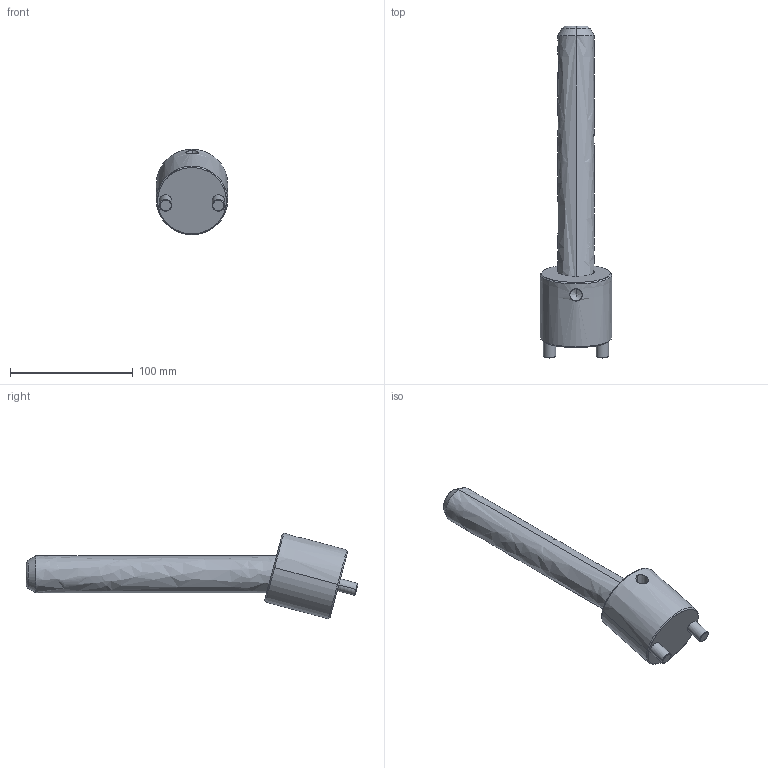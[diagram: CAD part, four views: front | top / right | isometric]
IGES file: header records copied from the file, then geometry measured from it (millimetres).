
Start section: START RECORD GO HERE.
Global section: file name: CI1530200.igs; native system: DASSAULT SYSTEMES CATIA V5 R20 - www.3ds.com; preprocessor: CATIA Version 5 Release 20 ; author: r.borello; organization: CFTORINO; date: 20190624.094123; units: millimetre
Bounding box: 58 x 270.33 x 69.74 mm (x, y, z)
Surface area: 44929 mm2 (no closed solid volume)
Topology: 0 solids, 0 shells, 39 faces, 162 edges, 160 vertices
Faces by surface type: revolution 32, plane 7
